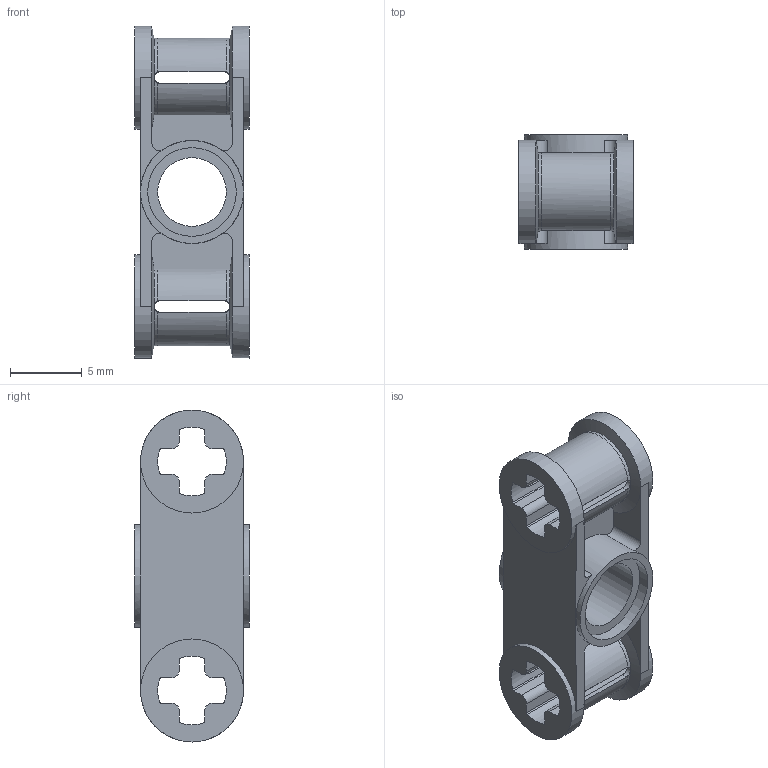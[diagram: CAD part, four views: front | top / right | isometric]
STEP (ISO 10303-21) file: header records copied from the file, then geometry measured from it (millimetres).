
FILE_DESCRIPTION(/* description */ ('Unknown'),/* implementation_level */ '2;1');
FILE_NAME(/* name */ 'ClGray_4211621_MCM',/* time_stamp */ '2025-07-21T23:51:36+02:00',/* author */ ('Unknown'),/* organization */ ('Unknown'),/* preprocessor_version */ 'ST-DEVELOPER v19.4',/* originating_system */ 'Solid Edge',/* authorisation */ 'Unknown');
FILE_SCHEMA (('AUTOMOTIVE_DESIGN {1 0 10303 214 3 1 1}'));
Length unit declared in the file: millimetre
Products named in the file (1): ClGray_4211621_MCM
Bounding box: 8 x 8 x 23.2 mm (x, y, z)
Volume: 531.5 mm3; surface area: 1205.1 mm2
Topology: 1 solids, 1 shells, 127 faces, 368 edges, 241 vertices
Faces by surface type: cylinder 67, plane 56, cone 4
Full cylindrical faces by diameter (mm): 4.8 x1, 6.2 x2, 7.2 x6
Entity records: 4312 total; most frequent: CARTESIAN_POINT 974, ORIENTED_EDGE 716, DIRECTION 664, EDGE_CURVE 358, AXIS2_PLACEMENT_3D 246, VERTEX_POINT 240, LINE 172, VECTOR 172
